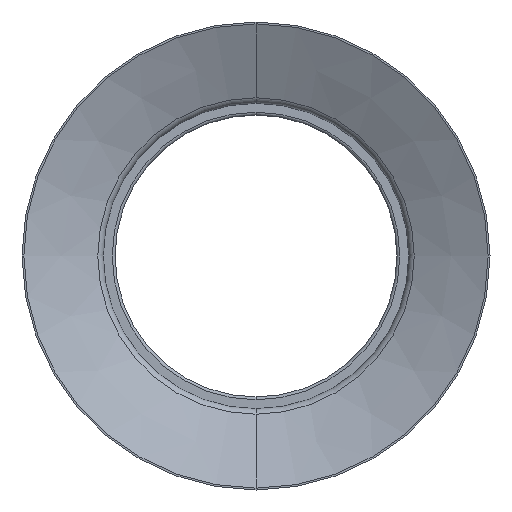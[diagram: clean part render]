
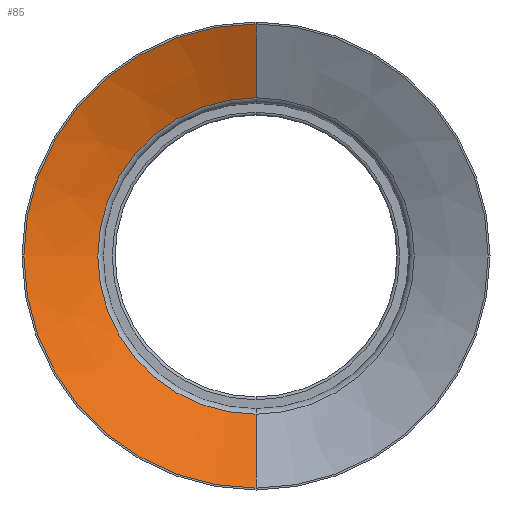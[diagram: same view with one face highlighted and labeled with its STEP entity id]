
A CAD part, front view. The second image highlights one B-rep face of the part: STEP entity #85.
In plain terms, the highlighted conical face has half-angle 65.464 degrees and reference radius 24.7 mm.
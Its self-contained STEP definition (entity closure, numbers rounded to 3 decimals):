
#85 = ADVANCED_FACE ( 'NONE', ( #670 ), #302, .F. ) ;
#167 = VERTEX_POINT ( 'NONE', #1973 ) ;
#234 = EDGE_CURVE ( 'NONE', #167, #1310, #2901, .T. ) ;
#302 = CONICAL_SURFACE ( 'NONE', #2147, 24.7, 1.143 ) ;
#315 = DIRECTION ( 'NONE',  ( 0., 0., -1. ) ) ;
#348 = VERTEX_POINT ( 'NONE', #2107 ) ;
#525 = DIRECTION ( 'NONE',  ( 0., 0., 1. ) ) ;
#631 = EDGE_LOOP ( 'NONE', ( #862, #1354, #2571, #1287 ) ) ;
#670 = FACE_OUTER_BOUND ( 'NONE', #631, .T. ) ;
#706 = VERTEX_POINT ( 'NONE', #3043 ) ;
#823 = DIRECTION ( 'NONE',  ( 0., -1., 0. ) ) ;
#862 = ORIENTED_EDGE ( 'NONE', *, *, #1950, .T. ) ;
#1081 = CARTESIAN_POINT ( 'NONE',  ( 0., -53., 0. ) ) ;
#1240 = VECTOR ( 'NONE', #2778, 1000. ) ;
#1287 = ORIENTED_EDGE ( 'NONE', *, *, #2693, .F. ) ;
#1310 = VERTEX_POINT ( 'NONE', #2855 ) ;
#1319 = CARTESIAN_POINT ( 'NONE',  ( 0., -53., 24.7 ) ) ;
#1328 = CARTESIAN_POINT ( 'NONE',  ( 0., -49.41, 0. ) ) ;
#1354 = ORIENTED_EDGE ( 'NONE', *, *, #2116, .T. ) ;
#1591 = CARTESIAN_POINT ( 'NONE',  ( 0., -53., -24.7 ) ) ;
#1765 = DIRECTION ( 'NONE',  ( 0., -0.415, 0.91 ) ) ;
#1876 = LINE ( 'NONE', #1591, #1240 ) ;
#1911 = AXIS2_PLACEMENT_3D ( 'NONE', #1328, #2057, #525 ) ;
#1950 = EDGE_CURVE ( 'NONE', #348, #706, #2098, .T. ) ;
#1973 = CARTESIAN_POINT ( 'NONE',  ( 0., -53., -24.7 ) ) ;
#2057 = DIRECTION ( 'NONE',  ( 0., 1., 0. ) ) ;
#2098 = CIRCLE ( 'NONE', #1911, 16.835 ) ;
#2107 = CARTESIAN_POINT ( 'NONE',  ( 0., -49.41, -16.835 ) ) ;
#2116 = EDGE_CURVE ( 'NONE', #706, #1310, #2838, .T. ) ;
#2147 = AXIS2_PLACEMENT_3D ( 'NONE', #2713, #823, #315 ) ;
#2214 = VECTOR ( 'NONE', #1765, 1000. ) ;
#2513 = AXIS2_PLACEMENT_3D ( 'NONE', #1081, #2761, #2530 ) ;
#2530 = DIRECTION ( 'NONE',  ( 0., 0., 1. ) ) ;
#2571 = ORIENTED_EDGE ( 'NONE', *, *, #234, .F. ) ;
#2693 = EDGE_CURVE ( 'NONE', #348, #167, #1876, .T. ) ;
#2713 = CARTESIAN_POINT ( 'NONE',  ( 0., -53., 0. ) ) ;
#2761 = DIRECTION ( 'NONE',  ( 0., 1., 0. ) ) ;
#2778 = DIRECTION ( 'NONE',  ( 0., -0.415, -0.91 ) ) ;
#2838 = LINE ( 'NONE', #1319, #2214 ) ;
#2855 = CARTESIAN_POINT ( 'NONE',  ( 0., -53., 24.7 ) ) ;
#2901 = CIRCLE ( 'NONE', #2513, 24.7 ) ;
#3043 = CARTESIAN_POINT ( 'NONE',  ( 0., -49.41, 16.835 ) ) ;
